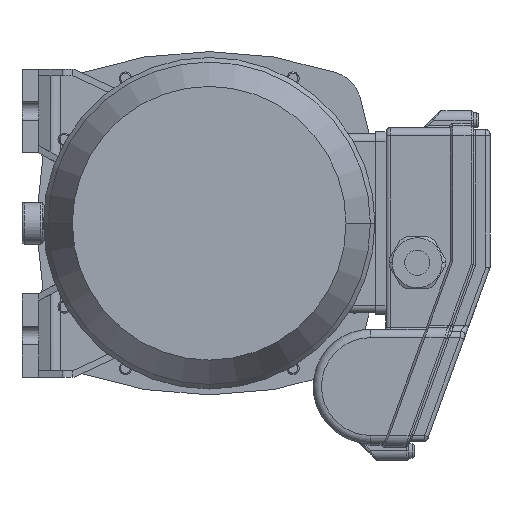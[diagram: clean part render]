
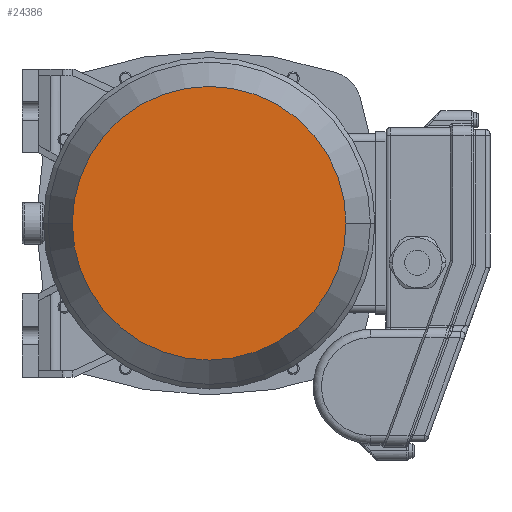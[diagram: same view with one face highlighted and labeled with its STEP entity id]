
A CAD part, front view. The second image highlights one B-rep face of the part: STEP entity #24386.
In plain terms, the highlighted planar face has unit normal (0, -1, 0) as drawn and (1, 0, 0) by its records, which use the part's own axes.
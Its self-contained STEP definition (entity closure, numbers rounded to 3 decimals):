
#18479=CARTESIAN_POINT('',(203.,0.,0.));
#18480=DIRECTION('',(-1.,0.,0.));
#18481=DIRECTION('',(0.,1.,0.));
#18482=AXIS2_PLACEMENT_3D('',#18479,#18480,#18481);
#18487=CARTESIAN_POINT('',(203.,0.,0.));
#18488=DIRECTION('',(1.,0.,0.));
#18489=DIRECTION('',(0.,1.,0.));
#18490=AXIS2_PLACEMENT_3D('',#18487,#18488,#18489);
#19795=CARTESIAN_POINT('',(203.,65.794,0.));
#19797=VERTEX_POINT('',#19795);
#19805=CARTESIAN_POINT('',(203.,-65.794,0.));
#19807=VERTEX_POINT('',#19805);
#24377=CARTESIAN_POINT('',(203.,0.,0.));
#24378=DIRECTION('',(1.,0.,0.));
#24379=DIRECTION('',(0.,-1.,0.));
#24380=AXIS2_PLACEMENT_3D('',#24377,#24378,#24379);
#24381=PLANE('',#24380);
#24382=ORIENTED_EDGE('',*,*,#24359,.T.);
#24383=ORIENTED_EDGE('',*,*,#24370,.F.);
#24384=EDGE_LOOP('',(#24382,#24383));
#24385=FACE_OUTER_BOUND('',#24384,.F.);
#18483=CIRCLE('',#18482,65.794);
#18491=CIRCLE('',#18490,65.794);
#24359=EDGE_CURVE('',#19797,#19807,#18483,.T.);
#24370=EDGE_CURVE('',#19797,#19807,#18491,.T.);
#24386=ADVANCED_FACE('',(#24385),#24381,.T.);
